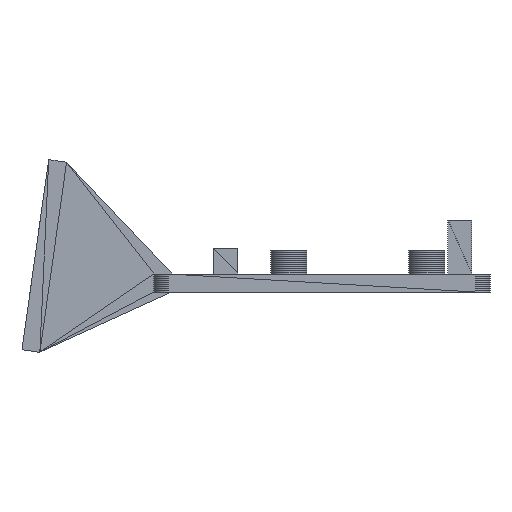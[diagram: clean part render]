
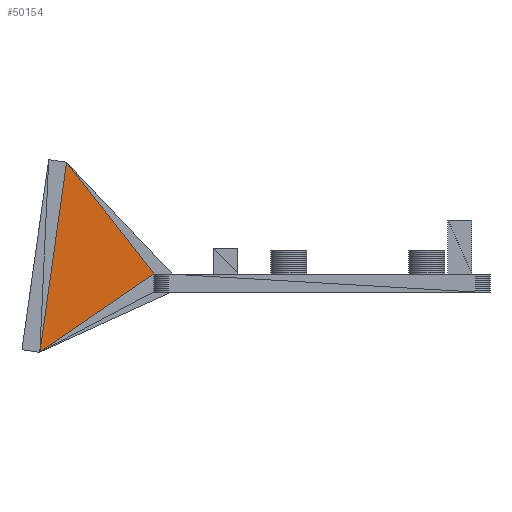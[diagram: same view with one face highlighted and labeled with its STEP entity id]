
A CAD part, left-side view. The second image highlights one B-rep face of the part: STEP entity #50154.
In plain terms, the highlighted planar face has unit normal (-1, 0, 0).
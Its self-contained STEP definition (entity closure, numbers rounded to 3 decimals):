
#847=CARTESIAN_POINT('',(-16.5,24.0,3.0));
#848=VERTEX_POINT('',#847);
#3501=CARTESIAN_POINT('',(-16.5,43.029,-10.053));
#3502=VERTEX_POINT('',#3501);
#3507=CARTESIAN_POINT('',(-16.5,38.576,21.636));
#3508=VERTEX_POINT('',#3507);
#50083=DIRECTION('',(0.0,-0.139,0.99));
#50084=VECTOR('',#50083,32.);
#50085=LINE('',#3501,#50084);
#50086=EDGE_CURVE('',#3502,#3508,#50085,.T.);
#50101=DIRECTION('',(0.0,0.825,-0.566));
#50102=VECTOR('',#50101,23.076);
#50103=LINE('',#847,#50102);
#50104=EDGE_CURVE('',#848,#3502,#50103,.T.);
#50141=ORIENTED_EDGE('',*,*,#50104,.F.);
#50142=DIRECTION('',(0.0,0.616,0.788));
#50143=VECTOR('',#50142,23.659);
#50144=LINE('',#847,#50143);
#50145=EDGE_CURVE('',#848,#3508,#50144,.T.);
#50146=ORIENTED_EDGE('',*,*,#50145,.T.);
#50147=ORIENTED_EDGE('',*,*,#50086,.F.);
#50148=EDGE_LOOP('',(#50141,#50146,#50147));
#50149=FACE_OUTER_BOUND('',#50148,.T.);
#50150=DIRECTION('',(-1.0,0.0,0.0));
#50151=DIRECTION('',(0.0,0.0,-1.0));
#50152=AXIS2_PLACEMENT_3D('',#3501,#50150,#50151);
#50153=PLANE('',#50152);
#50154=ADVANCED_FACE('',(#50149),#50153,.T.);
